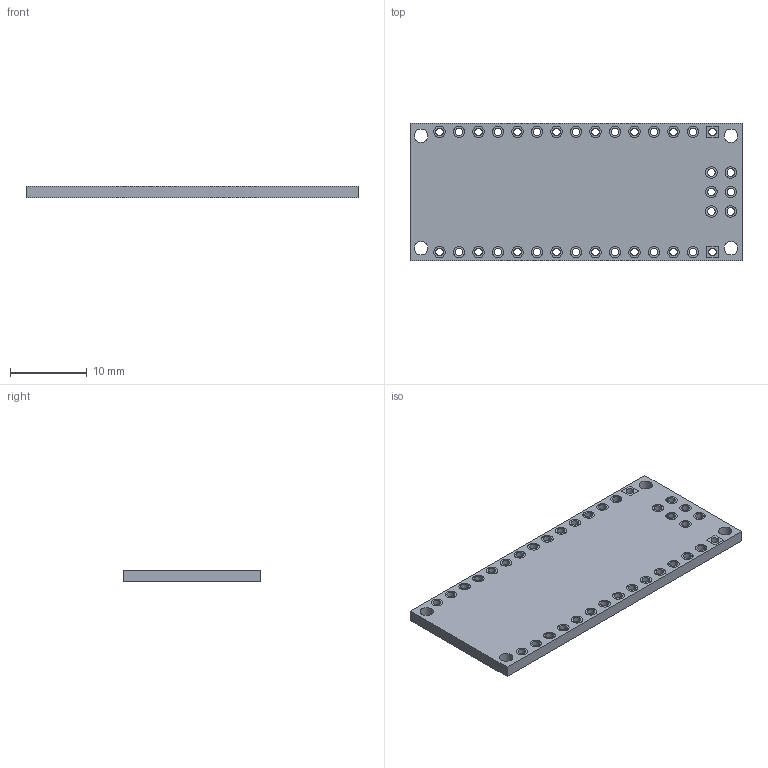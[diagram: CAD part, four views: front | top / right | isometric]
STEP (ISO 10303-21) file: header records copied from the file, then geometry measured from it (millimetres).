
FILE_DESCRIPTION (( 'STEP AP203' ), '1' );
FILE_NAME ('pcb chinese nano.stp.STEP', '2026-08-19T20:49:50', ( '' ), ( '' ), 'SwSTEP 2.0', 'SolidWorks 2024', '' );
FILE_SCHEMA (( 'CONFIG_CONTROL_DESIGN' ));
Length unit declared in the file: millimetre
Products named in the file (1): pcb chinese nano.stp
Bounding box: 43.25 x 17.85 x 1.52 mm (x, y, z)
Volume: 1101.9 mm3; surface area: 1859.9 mm2
Topology: 1 solids, 1 shells, 202 faces, 384 edges, 256 vertices
Faces by surface type: cylinder 108, plane 94
Full cylindrical faces by diameter (mm): 1 x36, 1.5 x68, 1.75 x4
Entity records: 4879 total; most frequent: DIRECTION 898, CARTESIAN_POINT 735, ORIENTED_EDGE 552, EDGE_LOOP 462, AXIS2_PLACEMENT_3D 419, FACE_OUTER_BOUND 310, EDGE_CURVE 276, VERTEX_POINT 256
